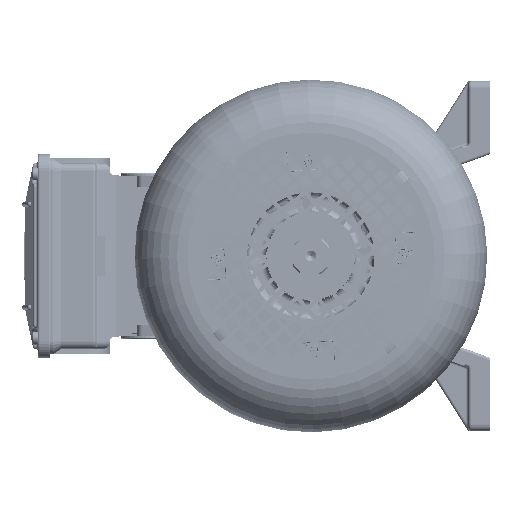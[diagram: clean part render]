
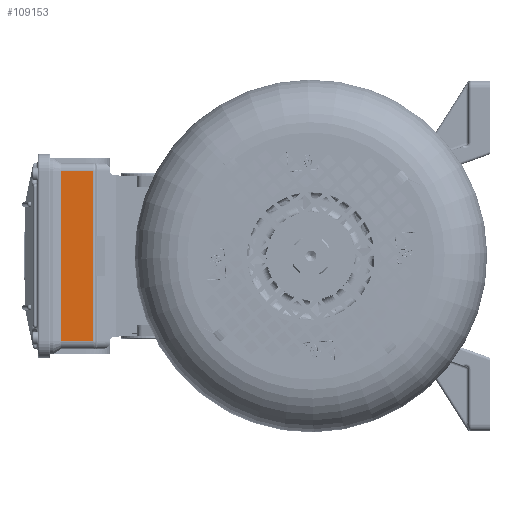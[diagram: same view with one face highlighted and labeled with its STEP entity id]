
A CAD part, left-side view. The second image highlights one B-rep face of the part: STEP entity #109153.
In plain terms, the highlighted planar face has unit normal (-1, 0, 0) as drawn and (1, 0, 0) by its records, which use the part's own axes.
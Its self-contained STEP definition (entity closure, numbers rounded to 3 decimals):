
#11928 = PLANE ( 'NONE',  #149859 ) ;
#14455 = DIRECTION ( 'NONE',  ( 0., 1., 0. ) ) ;
#22319 = CARTESIAN_POINT ( 'NONE',  ( 92.5, -35.5, -62.5 ) ) ;
#23587 = VECTOR ( 'NONE', #14455, 1000. ) ;
#31458 = DIRECTION ( 'NONE',  ( 0., 0., -1. ) ) ;
#31777 = ORIENTED_EDGE ( 'NONE', *, *, #181922, .F. ) ;
#34579 = EDGE_CURVE ( 'NONE', #114461, #151333, #191303, .T. ) ;
#36099 = VECTOR ( 'NONE', #192232, 1000. ) ;
#41849 = ORIENTED_EDGE ( 'NONE', *, *, #141711, .T. ) ;
#43448 = DIRECTION ( 'NONE',  ( 0., 0., 1. ) ) ;
#54154 = VERTEX_POINT ( 'NONE', #185181 ) ;
#68526 = DIRECTION ( 'NONE',  ( 0., 0., 1. ) ) ;
#73536 = VECTOR ( 'NONE', #31458, 1000. ) ;
#77615 = CARTESIAN_POINT ( 'NONE',  ( 92.5, -282.704, 62.5 ) ) ;
#86939 = LINE ( 'NONE', #98069, #192761 ) ;
#88941 = ORIENTED_EDGE ( 'NONE', *, *, #145399, .T. ) ;
#91239 = CARTESIAN_POINT ( 'NONE',  ( 92.5, -35.5, -62.5 ) ) ;
#98069 = CARTESIAN_POINT ( 'NONE',  ( 92.5, -11.7, -62.5 ) ) ;
#100312 = CARTESIAN_POINT ( 'NONE',  ( 92.5, -11.7, -62.5 ) ) ;
#102117 = CARTESIAN_POINT ( 'NONE',  ( 92.5, -282.704, -62.5 ) ) ;
#109153 = ADVANCED_FACE ( 'NONE', ( #143730 ), #11928, .F. ) ;
#112895 = LINE ( 'NONE', #77615, #23587 ) ;
#113409 = LINE ( 'NONE', #91239, #73536 ) ;
#114461 = VERTEX_POINT ( 'NONE', #22319 ) ;
#118305 = CARTESIAN_POINT ( 'NONE',  ( 92.5, -282.704, -62.5 ) ) ;
#131403 = EDGE_LOOP ( 'NONE', ( #31777, #41849, #164874, #88941 ) ) ;
#133487 = DIRECTION ( 'NONE',  ( -1., 0., 0. ) ) ;
#137726 = CARTESIAN_POINT ( 'NONE',  ( 92.5, -11.7, 62.5 ) ) ;
#141711 = EDGE_CURVE ( 'NONE', #54154, #114461, #113409, .T. ) ;
#143730 = FACE_OUTER_BOUND ( 'NONE', #131403, .T. ) ;
#145399 = EDGE_CURVE ( 'NONE', #151333, #192187, #86939, .T. ) ;
#149859 = AXIS2_PLACEMENT_3D ( 'NONE', #118305, #133487, #43448 ) ;
#151333 = VERTEX_POINT ( 'NONE', #100312 ) ;
#164874 = ORIENTED_EDGE ( 'NONE', *, *, #34579, .T. ) ;
#181922 = EDGE_CURVE ( 'NONE', #54154, #192187, #112895, .T. ) ;
#185181 = CARTESIAN_POINT ( 'NONE',  ( 92.5, -35.5, 62.5 ) ) ;
#191303 = LINE ( 'NONE', #102117, #36099 ) ;
#192187 = VERTEX_POINT ( 'NONE', #137726 ) ;
#192232 = DIRECTION ( 'NONE',  ( 0., 1., 0. ) ) ;
#192761 = VECTOR ( 'NONE', #68526, 1000. ) ;
